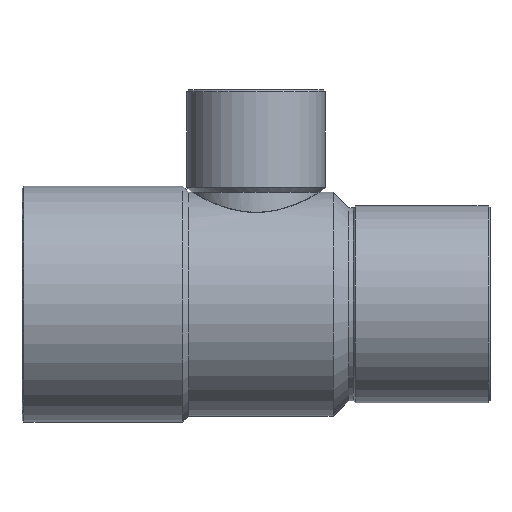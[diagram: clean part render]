
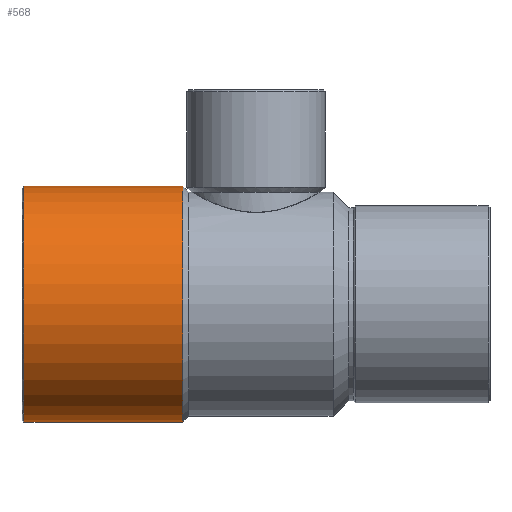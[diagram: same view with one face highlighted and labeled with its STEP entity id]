
A CAD part, top view. The second image highlights one B-rep face of the part: STEP entity #568.
In plain terms, the highlighted cylindrical face has radius 12.1 mm (diameter 24.2 mm), a partial arc.
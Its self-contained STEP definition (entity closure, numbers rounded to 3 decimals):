
#130=CARTESIAN_POINT('',(-7.518,12.1,0.0));
#131=VERTEX_POINT('',#130);
#138=CARTESIAN_POINT('',(-7.518,-12.1,0.));
#139=VERTEX_POINT('',#138);
#140=CARTESIAN_POINT('',(-7.518,0.0,0.0));
#141=DIRECTION('',(1.0,0.0,0.0));
#142=DIRECTION('',(0.0,1.0,0.0));
#143=AXIS2_PLACEMENT_3D('',#140,#141,#142);
#144=CIRCLE('',#143,12.1);
#145=EDGE_CURVE('',#131,#139,#144,.T.);
#537=CARTESIAN_POINT('',(-15.759,0.0,0.0));
#538=DIRECTION('',(1.0,0.0,0.0));
#539=DIRECTION('',(0.0,1.0,0.0));
#540=AXIS2_PLACEMENT_3D('',#537,#538,#539);
#541=CYLINDRICAL_SURFACE('',#540,12.1);
#542=CARTESIAN_POINT('',(-23.8,12.1,0.));
#543=VERTEX_POINT('',#542);
#544=CARTESIAN_POINT('',(-23.8,12.1,0.));
#545=DIRECTION('',(1.0,0.0,0.0));
#546=VECTOR('',#545,16.282);
#547=LINE('',#544,#546);
#548=EDGE_CURVE('',#543,#131,#547,.T.);
#549=ORIENTED_EDGE('',*,*,#548,.F.);
#550=CARTESIAN_POINT('',(-23.8,-12.1,0.));
#551=VERTEX_POINT('',#550);
#552=CARTESIAN_POINT('',(-23.8,0.0,0.0));
#553=DIRECTION('',(-1.0,0.0,0.0));
#554=DIRECTION('',(0.0,-1.0,0.0));
#555=AXIS2_PLACEMENT_3D('',#552,#553,#554);
#556=CIRCLE('',#555,12.1);
#557=EDGE_CURVE('',#551,#543,#556,.T.);
#558=ORIENTED_EDGE('',*,*,#557,.F.);
#559=CARTESIAN_POINT('',(-7.518,-12.1,0.));
#560=DIRECTION('',(-1.0,0.0,0.0));
#561=VECTOR('',#560,16.282);
#562=LINE('',#559,#561);
#563=EDGE_CURVE('',#139,#551,#562,.T.);
#564=ORIENTED_EDGE('',*,*,#563,.F.);
#565=ORIENTED_EDGE('',*,*,#145,.F.);
#566=EDGE_LOOP('',(#549,#558,#564,#565));
#567=FACE_OUTER_BOUND('',#566,.T.);
#568=ADVANCED_FACE('',(#567),#541,.T.);
